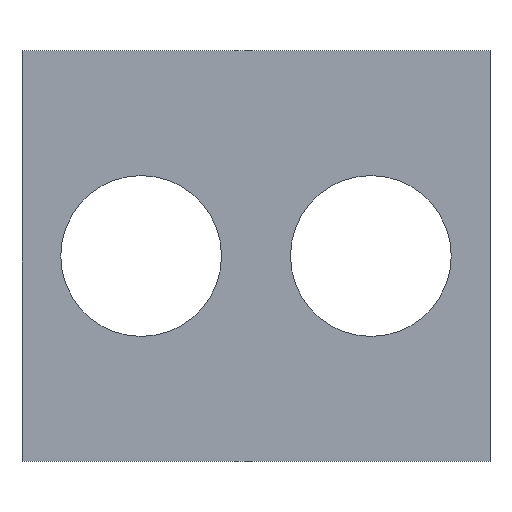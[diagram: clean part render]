
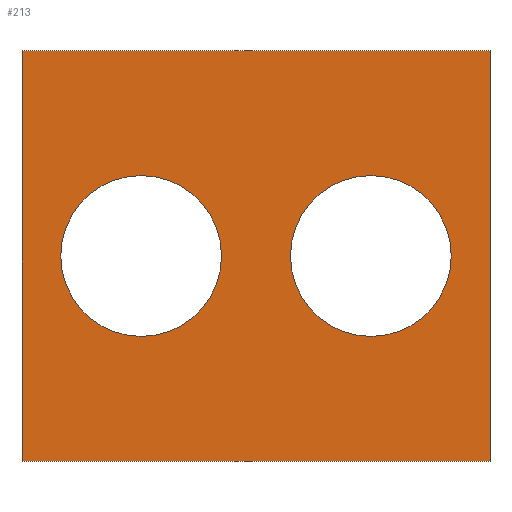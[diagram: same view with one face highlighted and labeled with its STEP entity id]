
A CAD part, top view. The second image highlights one B-rep face of the part: STEP entity #213.
In plain terms, the highlighted planar face has unit normal (0, 0, 1).
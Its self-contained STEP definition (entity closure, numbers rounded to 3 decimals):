
#24 = VERTEX_POINT('',#25);
#25 = CARTESIAN_POINT('',(-163.,-3.,712.));
#32 = PLANE('',#33);
#33 = AXIS2_PLACEMENT_3D('',#34,#35,#36);
#34 = CARTESIAN_POINT('',(-163.,-3.,706.));
#35 = DIRECTION('',(1.,0.,0.));
#36 = DIRECTION('',(0.,0.,1.));
#44 = PLANE('',#45);
#45 = AXIS2_PLACEMENT_3D('',#46,#47,#48);
#46 = CARTESIAN_POINT('',(-163.,-3.,706.));
#47 = DIRECTION('',(0.,1.,0.));
#48 = DIRECTION('',(0.,0.,1.));
#85 = VERTEX_POINT('',#86);
#86 = CARTESIAN_POINT('',(-163.,283.,712.));
#100 = PLANE('',#101);
#101 = AXIS2_PLACEMENT_3D('',#102,#103,#104);
#102 = CARTESIAN_POINT('',(-163.,283.,706.));
#103 = DIRECTION('',(0.,1.,0.));
#104 = DIRECTION('',(0.,0.,1.));
#112 = EDGE_CURVE('',#24,#85,#113,.T.);
#113 = SURFACE_CURVE('',#114,(#118,#125),.PCURVE_S1.);
#114 = LINE('',#115,#116);
#115 = CARTESIAN_POINT('',(-163.,-3.,712.));
#116 = VECTOR('',#117,1.);
#117 = DIRECTION('',(0.,1.,0.));
#118 = PCURVE('',#32,#119);
#119 = DEFINITIONAL_REPRESENTATION('',(#120),#124);
#120 = LINE('',#121,#122);
#121 = CARTESIAN_POINT('',(6.,0.));
#122 = VECTOR('',#123,1.);
#123 = DIRECTION('',(0.,-1.));
#124 = ( GEOMETRIC_REPRESENTATION_CONTEXT(2) 
PARAMETRIC_REPRESENTATION_CONTEXT() REPRESENTATION_CONTEXT('2D SPACE',''
  ) );
#125 = PCURVE('',#126,#131);
#126 = PLANE('',#127);
#127 = AXIS2_PLACEMENT_3D('',#128,#129,#130);
#128 = CARTESIAN_POINT('',(-163.,-3.,712.));
#129 = DIRECTION('',(0.,0.,1.));
#130 = DIRECTION('',(1.,0.,0.));
#131 = DEFINITIONAL_REPRESENTATION('',(#132),#136);
#132 = LINE('',#133,#134);
#133 = CARTESIAN_POINT('',(0.,0.));
#134 = VECTOR('',#135,1.);
#135 = DIRECTION('',(0.,1.));
#136 = ( GEOMETRIC_REPRESENTATION_CONTEXT(2) 
PARAMETRIC_REPRESENTATION_CONTEXT() REPRESENTATION_CONTEXT('2D SPACE',''
  ) );
#165 = EDGE_CURVE('',#24,#166,#168,.T.);
#166 = VERTEX_POINT('',#167);
#167 = CARTESIAN_POINT('',(163.,-3.,712.));
#168 = SURFACE_CURVE('',#169,(#173,#180),.PCURVE_S1.);
#169 = LINE('',#170,#171);
#170 = CARTESIAN_POINT('',(-163.,-3.,712.));
#171 = VECTOR('',#172,1.);
#172 = DIRECTION('',(1.,0.,0.));
#173 = PCURVE('',#44,#174);
#174 = DEFINITIONAL_REPRESENTATION('',(#175),#179);
#175 = LINE('',#176,#177);
#176 = CARTESIAN_POINT('',(6.,0.));
#177 = VECTOR('',#178,1.);
#178 = DIRECTION('',(0.,1.));
#179 = ( GEOMETRIC_REPRESENTATION_CONTEXT(2) 
PARAMETRIC_REPRESENTATION_CONTEXT() REPRESENTATION_CONTEXT('2D SPACE',''
  ) );
#180 = PCURVE('',#126,#181);
#181 = DEFINITIONAL_REPRESENTATION('',(#182),#186);
#182 = LINE('',#183,#184);
#183 = CARTESIAN_POINT('',(0.,0.));
#184 = VECTOR('',#185,1.);
#185 = DIRECTION('',(1.,0.));
#186 = ( GEOMETRIC_REPRESENTATION_CONTEXT(2) 
PARAMETRIC_REPRESENTATION_CONTEXT() REPRESENTATION_CONTEXT('2D SPACE',''
  ) );
#202 = PLANE('',#203);
#203 = AXIS2_PLACEMENT_3D('',#204,#205,#206);
#204 = CARTESIAN_POINT('',(163.,-3.,706.));
#205 = DIRECTION('',(1.,0.,0.));
#206 = DIRECTION('',(0.,0.,1.));
#213 = ADVANCED_FACE('',(#214,#262,#297),#126,.T.);
#214 = FACE_BOUND('',#215,.T.);
#215 = EDGE_LOOP('',(#216,#217,#218,#241));
#216 = ORIENTED_EDGE('',*,*,#112,.F.);
#217 = ORIENTED_EDGE('',*,*,#165,.T.);
#218 = ORIENTED_EDGE('',*,*,#219,.T.);
#219 = EDGE_CURVE('',#166,#220,#222,.T.);
#220 = VERTEX_POINT('',#221);
#221 = CARTESIAN_POINT('',(163.,283.,712.));
#222 = SURFACE_CURVE('',#223,(#227,#234),.PCURVE_S1.);
#223 = LINE('',#224,#225);
#224 = CARTESIAN_POINT('',(163.,-3.,712.));
#225 = VECTOR('',#226,1.);
#226 = DIRECTION('',(0.,1.,0.));
#227 = PCURVE('',#126,#228);
#228 = DEFINITIONAL_REPRESENTATION('',(#229),#233);
#229 = LINE('',#230,#231);
#230 = CARTESIAN_POINT('',(326.,0.));
#231 = VECTOR('',#232,1.);
#232 = DIRECTION('',(0.,1.));
#233 = ( GEOMETRIC_REPRESENTATION_CONTEXT(2) 
PARAMETRIC_REPRESENTATION_CONTEXT() REPRESENTATION_CONTEXT('2D SPACE',''
  ) );
#234 = PCURVE('',#202,#235);
#235 = DEFINITIONAL_REPRESENTATION('',(#236),#240);
#236 = LINE('',#237,#238);
#237 = CARTESIAN_POINT('',(6.,0.));
#238 = VECTOR('',#239,1.);
#239 = DIRECTION('',(0.,-1.));
#240 = ( GEOMETRIC_REPRESENTATION_CONTEXT(2) 
PARAMETRIC_REPRESENTATION_CONTEXT() REPRESENTATION_CONTEXT('2D SPACE',''
  ) );
#241 = ORIENTED_EDGE('',*,*,#242,.F.);
#242 = EDGE_CURVE('',#85,#220,#243,.T.);
#243 = SURFACE_CURVE('',#244,(#248,#255),.PCURVE_S1.);
#244 = LINE('',#245,#246);
#245 = CARTESIAN_POINT('',(-163.,283.,712.));
#246 = VECTOR('',#247,1.);
#247 = DIRECTION('',(1.,0.,0.));
#248 = PCURVE('',#126,#249);
#249 = DEFINITIONAL_REPRESENTATION('',(#250),#254);
#250 = LINE('',#251,#252);
#251 = CARTESIAN_POINT('',(0.,286.));
#252 = VECTOR('',#253,1.);
#253 = DIRECTION('',(1.,0.));
#254 = ( GEOMETRIC_REPRESENTATION_CONTEXT(2) 
PARAMETRIC_REPRESENTATION_CONTEXT() REPRESENTATION_CONTEXT('2D SPACE',''
  ) );
#255 = PCURVE('',#100,#256);
#256 = DEFINITIONAL_REPRESENTATION('',(#257),#261);
#257 = LINE('',#258,#259);
#258 = CARTESIAN_POINT('',(6.,0.));
#259 = VECTOR('',#260,1.);
#260 = DIRECTION('',(0.,1.));
#261 = ( GEOMETRIC_REPRESENTATION_CONTEXT(2) 
PARAMETRIC_REPRESENTATION_CONTEXT() REPRESENTATION_CONTEXT('2D SPACE',''
  ) );
#262 = FACE_BOUND('',#263,.T.);
#263 = EDGE_LOOP('',(#264));
#264 = ORIENTED_EDGE('',*,*,#265,.T.);
#265 = EDGE_CURVE('',#266,#266,#268,.T.);
#266 = VERTEX_POINT('',#267);
#267 = CARTESIAN_POINT('',(-24.,140.,712.));
#268 = SURFACE_CURVE('',#269,(#274,#285),.PCURVE_S1.);
#269 = CIRCLE('',#270,56.);
#270 = AXIS2_PLACEMENT_3D('',#271,#272,#273);
#271 = CARTESIAN_POINT('',(-80.,140.,712.));
#272 = DIRECTION('',(0.,0.,-1.));
#273 = DIRECTION('',(1.,0.,0.));
#274 = PCURVE('',#126,#275);
#275 = DEFINITIONAL_REPRESENTATION('',(#276),#284);
#276 = ( BOUNDED_CURVE() B_SPLINE_CURVE(2,(#277,#278,#279,#280,#281,#282
,#283),.UNSPECIFIED.,.T.,.F.) B_SPLINE_CURVE_WITH_KNOTS((1,2,2,2,2,1),(
    -2.094,0.,2.094,4.189,6.283,
8.378),.UNSPECIFIED.) CURVE() GEOMETRIC_REPRESENTATION_ITEM() 
RATIONAL_B_SPLINE_CURVE((1.,0.5,1.,0.5,1.,0.5,1.)) REPRESENTATION_ITEM(
  '') );
#277 = CARTESIAN_POINT('',(139.,143.));
#278 = CARTESIAN_POINT('',(139.,46.005));
#279 = CARTESIAN_POINT('',(55.,94.503));
#280 = CARTESIAN_POINT('',(-29.,143.));
#281 = CARTESIAN_POINT('',(55.,191.497));
#282 = CARTESIAN_POINT('',(139.,239.995));
#283 = CARTESIAN_POINT('',(139.,143.));
#284 = ( GEOMETRIC_REPRESENTATION_CONTEXT(2) 
PARAMETRIC_REPRESENTATION_CONTEXT() REPRESENTATION_CONTEXT('2D SPACE',''
  ) );
#285 = PCURVE('',#286,#291);
#286 = CYLINDRICAL_SURFACE('',#287,56.);
#287 = AXIS2_PLACEMENT_3D('',#288,#289,#290);
#288 = CARTESIAN_POINT('',(-80.,140.,705.));
#289 = DIRECTION('',(-0.,-0.,-1.));
#290 = DIRECTION('',(1.,0.,0.));
#291 = DEFINITIONAL_REPRESENTATION('',(#292),#296);
#292 = LINE('',#293,#294);
#293 = CARTESIAN_POINT('',(-6.283,-7.));
#294 = VECTOR('',#295,1.);
#295 = DIRECTION('',(1.,-0.));
#296 = ( GEOMETRIC_REPRESENTATION_CONTEXT(2) 
PARAMETRIC_REPRESENTATION_CONTEXT() REPRESENTATION_CONTEXT('2D SPACE',''
  ) );
#297 = FACE_BOUND('',#298,.T.);
#298 = EDGE_LOOP('',(#299));
#299 = ORIENTED_EDGE('',*,*,#300,.T.);
#300 = EDGE_CURVE('',#301,#301,#303,.T.);
#301 = VERTEX_POINT('',#302);
#302 = CARTESIAN_POINT('',(136.,140.,712.));
#303 = SURFACE_CURVE('',#304,(#309,#320),.PCURVE_S1.);
#304 = CIRCLE('',#305,56.);
#305 = AXIS2_PLACEMENT_3D('',#306,#307,#308);
#306 = CARTESIAN_POINT('',(80.,140.,712.));
#307 = DIRECTION('',(0.,0.,-1.));
#308 = DIRECTION('',(1.,0.,0.));
#309 = PCURVE('',#126,#310);
#310 = DEFINITIONAL_REPRESENTATION('',(#311),#319);
#311 = ( BOUNDED_CURVE() B_SPLINE_CURVE(2,(#312,#313,#314,#315,#316,#317
,#318),.UNSPECIFIED.,.T.,.F.) B_SPLINE_CURVE_WITH_KNOTS((1,2,2,2,2,1),(
    -2.094,0.,2.094,4.189,6.283,
8.378),.UNSPECIFIED.) CURVE() GEOMETRIC_REPRESENTATION_ITEM() 
RATIONAL_B_SPLINE_CURVE((1.,0.5,1.,0.5,1.,0.5,1.)) REPRESENTATION_ITEM(
  '') );
#312 = CARTESIAN_POINT('',(299.,143.));
#313 = CARTESIAN_POINT('',(299.,46.005));
#314 = CARTESIAN_POINT('',(215.,94.503));
#315 = CARTESIAN_POINT('',(131.,143.));
#316 = CARTESIAN_POINT('',(215.,191.497));
#317 = CARTESIAN_POINT('',(299.,239.995));
#318 = CARTESIAN_POINT('',(299.,143.));
#319 = ( GEOMETRIC_REPRESENTATION_CONTEXT(2) 
PARAMETRIC_REPRESENTATION_CONTEXT() REPRESENTATION_CONTEXT('2D SPACE',''
  ) );
#320 = PCURVE('',#321,#326);
#321 = CYLINDRICAL_SURFACE('',#322,56.);
#322 = AXIS2_PLACEMENT_3D('',#323,#324,#325);
#323 = CARTESIAN_POINT('',(80.,140.,705.));
#324 = DIRECTION('',(-0.,-0.,-1.));
#325 = DIRECTION('',(1.,0.,0.));
#326 = DEFINITIONAL_REPRESENTATION('',(#327),#331);
#327 = LINE('',#328,#329);
#328 = CARTESIAN_POINT('',(-6.283,-7.));
#329 = VECTOR('',#330,1.);
#330 = DIRECTION('',(1.,-0.));
#331 = ( GEOMETRIC_REPRESENTATION_CONTEXT(2) 
PARAMETRIC_REPRESENTATION_CONTEXT() REPRESENTATION_CONTEXT('2D SPACE',''
  ) );
